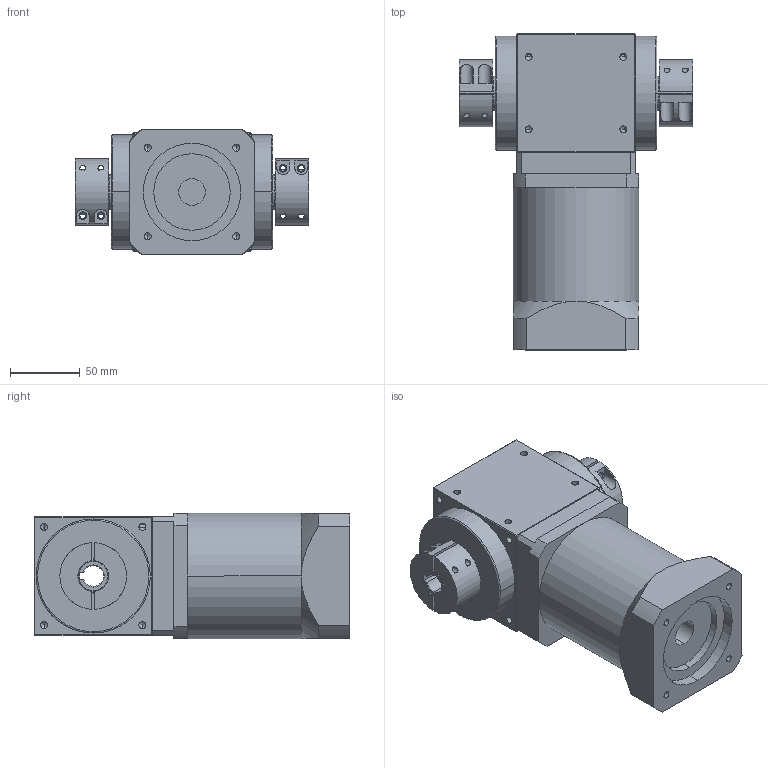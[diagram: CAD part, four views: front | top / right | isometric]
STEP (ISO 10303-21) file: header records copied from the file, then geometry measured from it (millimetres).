
FILE_DESCRIPTION (( 'STEP AP214' ), '1' );
FILE_NAME ('PAW085A-L2-2C-K(12-100) 19-70-90-M6.STEP', '2021-04-24T07:55:00', ( 'Microsoft' ), ( 'Microsoft China' ), 'SwSTEP 2.0', 'SolidWorks 2016', '' );
FILE_SCHEMA (( 'AUTOMOTIVE_DESIGN' ));
Length unit declared in the file: millimetre
Products named in the file (3): 085標杶_1; PAW085A-L2-2C-K(12-100) 19-70-90-M6; PAW085A-L2-2C-K--19-70-90-M6_1
Assembly tree (3 placements, depth 2):
  PAW085A-L2-2C-K(12-100) 19-70-90-M6
    PAW085A-L2-2C-K--19-70-90-M6_1
    085標杶_1  x2
Bounding box: 168 x 227 x 90 mm (x, y, z)
Volume: 1743427.3 mm3; surface area: 142275.1 mm2
Topology: 6 solids, 6 shells, 324 faces, 782 edges, 469 vertices
Faces by surface type: cylinder 131, plane 108, cone 81, bspline 4
Entity records: 11461 total; most frequent: CARTESIAN_POINT 1974, DIRECTION 1383, ORIENTED_EDGE 1256, EDGE_CURVE 628, AXIS2_PLACEMENT_3D 542, VERTEX_POINT 389, EDGE_LOOP 331, VECTOR 299
